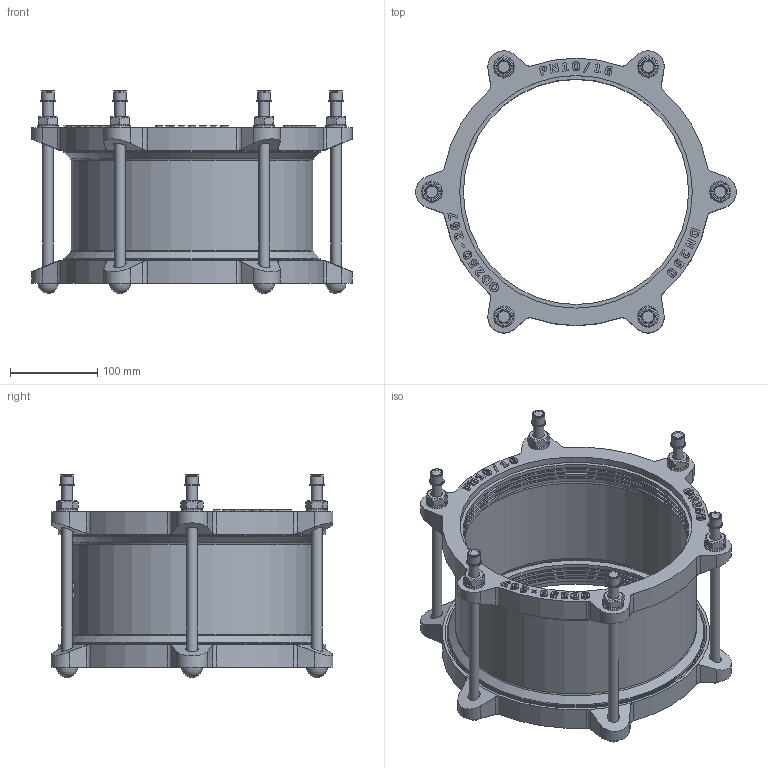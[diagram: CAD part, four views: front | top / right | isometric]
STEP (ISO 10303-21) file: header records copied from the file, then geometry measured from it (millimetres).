
FILE_DESCRIPTION(('STEP AP203'), '1');
FILE_NAME('Cîåäèíèòåëüíàÿ ìóôòà äëÿ æåñòêèõ òðóá', '', ('UNSPECIFIED'), ('UNSPECIFIED'), 'C3D Converter', 'C3D Toolkit', '');
FILE_SCHEMA(('CONFIG_CONTROL_DESIGN'));
Length unit declared in the file: millimetre
Assembly tree (29 placements, depth 2):
  (unnamed)
    (unnamed)
    (unnamed)  x6
    (unnamed)  x6
    (unnamed)  x6
    (unnamed)  x6
    (unnamed)
    (unnamed)
    (unnamed)  x2
Bounding box: 368 x 323.65 x 233.2 mm (x, y, z)
Volume: 2086708.4 mm3; surface area: 703778.7 mm2
Topology: 33 solids, 33 shells, 878 faces, 2184 edges, 1432 vertices
Faces by surface type: extrusion 338, plane 323, cylinder 139, cone 48, torus 24, sphere 6
Full cylindrical faces by diameter (mm): 12 x18, 13 x6, 14 x12, 14.4 x6, 16.8 x6, 21.172 x1, 24 x6, 258.5 x8, 262.75 x6, 267 x3, 272 x2, 277 x3, 294.5 x2, 297 x4
Entity records: 33124 total; most frequent: CARTESIAN_POINT 12020, ORIENTED_EDGE 3604, DIRECTION 2340, EDGE_CURVE 1802, VERTEX_POINT 1230, VECTOR 1156, B_SPLINE_CURVE_WITH_KNOTS 1101, EDGE_LOOP 866
